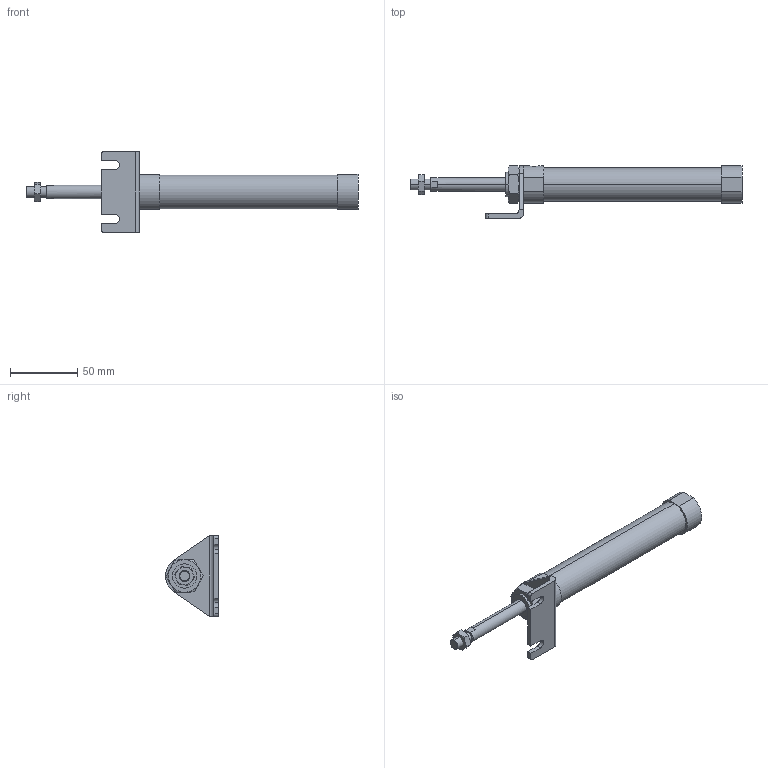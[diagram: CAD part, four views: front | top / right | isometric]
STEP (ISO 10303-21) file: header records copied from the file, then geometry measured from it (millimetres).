
FILE_DESCRIPTION (( 'STEP AP203' ), '1' );
FILE_NAME ('JGND0-20-50-L.STEP', '2016-08-04T02:07:32', ( '' ), ( '' ), 'SwSTEP 2.0', 'SolidWorks 2014', '' );
FILE_SCHEMA (( 'CONFIG_CONTROL_DESIGN' ));
Length unit declared in the file: millimetre
Products named in the file (5): JGND0-20-50-L; J#0-20-50(P); J#2-20-L
Assembly tree (4 placements, depth 2):
  JGND0-20-50-L
    J#0-20-50(P)
    (unnamed)
    (unnamed)
    J#2-20-L
Bounding box: 246 x 39 x 60 mm (x, y, z)
Volume: 101763.7 mm3; surface area: 25900.6 mm2
Topology: 4 solids, 4 shells, 108 faces, 249 edges, 156 vertices
Faces by surface type: plane 48, cylinder 32, torus 24, cone 4
Entity records: 3864 total; most frequent: CARTESIAN_POINT 910, DIRECTION 519, ORIENTED_EDGE 498, EDGE_CURVE 249, AXIS2_PLACEMENT_3D 209, VERTEX_POINT 156, EDGE_LOOP 121, FACE_OUTER_BOUND 108
